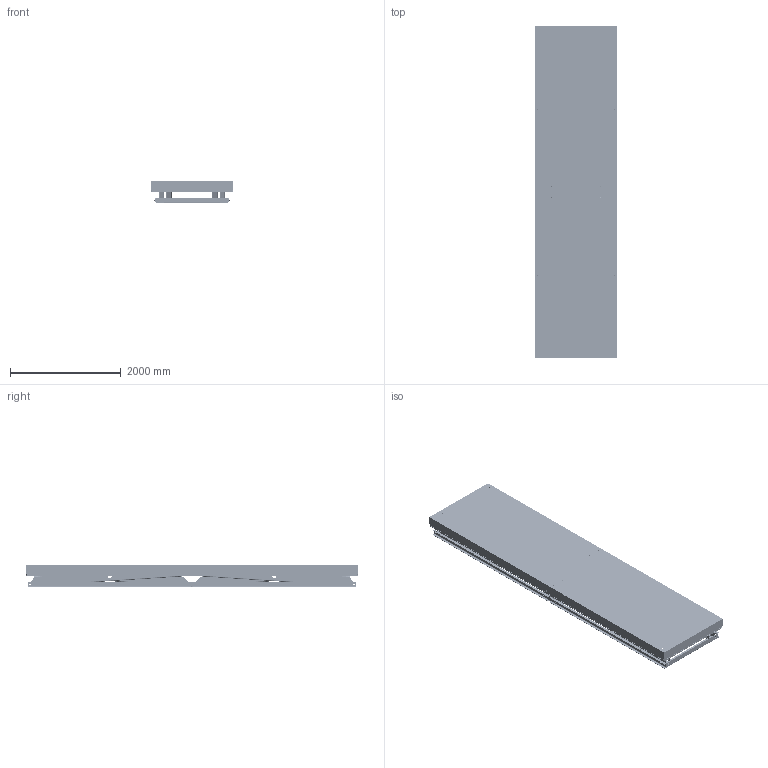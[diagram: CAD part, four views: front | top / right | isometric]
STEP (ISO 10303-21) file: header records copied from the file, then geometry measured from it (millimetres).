
FILE_DESCRIPTION(/* description */ (''),/* implementation_level */ '2;1');
FILE_NAME(/* name */ 'C:\Autodesk_VaultWork\Ritningar\500000-599999\510000-519999\516158_Collapsed.stp',/* time_stamp */ '2020-10-27T15:03:13+01:00',/* author */ ('johso'),/* organization */ (''),/* preprocessor_version */ 'ST-DEVELOPER v16.5',/* originating_system */ 'Autodesk Inventor 2017',/* authorisation */ '');
FILE_SCHEMA (('AUTOMOTIVE_DESIGN { 1 0 10303 214 3 1 1 }'));
Products named in the file (56): 516158.tmp; 614153; 514565; 514568-1; 515594-2; 515594-1; 514568-2; 600366; 41333-1300; 514568-3; 614154; 614155; ISO 4017 - M10 x 35; 614156; 82091 - 100; 83209; 83241; 514567; 514571; 614160; 614161; 42565; 514567_1; 514572; 80030 - 1000; 35435-4; 35435-3; 514571_1; 514577; 80030 - 738; 614165; 614166; 614162; 614164; 614163; 608316; 614028; 41333-2936; 41333-198; 41333-492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
Assembly tree (205 placements, depth 4):
  516158.tmp
    614153
      514565  x2
        514568-1
        515594-2
        515594-1
        42565
        514568-2
        600366
        41333-1300
        514568-3
      614154  x2
      614155  x4
      ISO 4017 - M10 x 35  x8
      83209  x10
      614156  x2
        82091 - 100
      83241  x2
    514567
      514572
        514577  x2
        80030 - 1000
        35435-4  x2
        35435-3  x4
      514571
        514577  x2
        80030 - 738
    614160
      614161
      614162  x2
      614164
      614163
      608316  x2
      614028
      42565  x2
      41333-2936  x2
      41333-198  x3
      41333-492  x4
      614029  x2
      83212  x6
      85955  x4
      80131
      45387  x5
    514567_1
      514572
        514577  x2
        80030 - 1000
        35435-4  x2
        35435-3  x4
      514571_1
        514577  x2
        80030 - 738
    614165
      614166
      614162  x2
      614164
      614163
      608316  x2
      614028
      41333-2936  x2
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Bounding box: 1500 x 6000 x 400 mm (x, y, z)
Volume: 220212749.8 mm3; surface area: 75498266.8 mm2
Topology: 212 solids, 236 shells, 15482 faces, 42502 edges, 27966 vertices
Faces by surface type: plane 8366, cylinder 4844, bspline 1476, cone 586, torus 210
Full cylindrical faces by diameter (mm): 0.474 x6, 1 x12, 3 x12, 3.141 x12, 3.2 x12, 4 x48, 4.3 x12, 4.9 x6, 5 x28, 5.2 x18, 5.3 x6, 5.6 x8, 6.647 x14, 7.4 x32, 7.6 x12, 8 x42, 8.376 x10, 8.5 x14, 9 x8, 10 x36, 10.5 x14, 11 x26, 11.6 x14, 11.63 x14, 12 x8, 12.5 x20, 13 x8, 13.835 x40, 14.6 x10, 14.63 x10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
Entity records: 144732 total; most frequent: CARTESIAN_POINT 32382, ORIENTED_EDGE 22934, DIRECTION 22457, EDGE_CURVE 11461, VERTEX_POINT 7688, LINE 7647, VECTOR 7647, AXIS2_PLACEMENT_3D 7405
